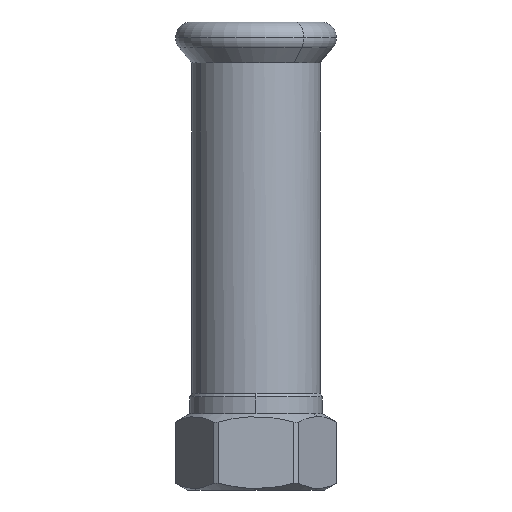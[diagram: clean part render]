
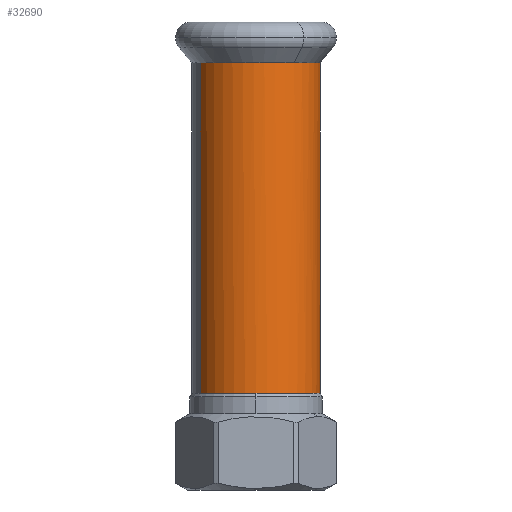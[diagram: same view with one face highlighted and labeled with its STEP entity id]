
A CAD part, left-side view. The second image highlights one B-rep face of the part: STEP entity #32690.
In plain terms, the highlighted cylindrical face has radius 12.65 mm (diameter 25.3 mm), a partial arc.
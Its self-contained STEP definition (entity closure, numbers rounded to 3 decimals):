
#2740=CARTESIAN_POINT('',(49.067,47.456,9.361));
#2750=DIRECTION('',(0.,0.,1.));
#2760=DIRECTION('',(-0.5,0.866,0.));
#2770=AXIS2_PLACEMENT_3D('',#2740,#2750,#2760);
#2780=CIRCLE('',#2770,12.65);
#2790=CARTESIAN_POINT('',(36.417,47.456,9.361));
#2800=VERTEX_POINT('',#2790);
#2810=CARTESIAN_POINT('',(55.392,36.501,9.361));
#2820=VERTEX_POINT('',#2810);
#2830=EDGE_CURVE('',#2800,#2820,#2780,.T.);
#2850=CARTESIAN_POINT('',(42.742,58.412,9.361));
#2860=VERTEX_POINT('',#2850);
#2890=EDGE_CURVE('',#2860,#2800,#2780,.T.);
#5260=CARTESIAN_POINT('',(49.067,47.456,40.289));
#5270=DIRECTION('',(0.,0.,-1.));
#5280=DIRECTION('',(-0.5,0.866,0.));
#5290=AXIS2_PLACEMENT_3D('',#5260,#5270,#5280);
#5300=CYLINDRICAL_SURFACE('',#5290,12.65);
#5310=CARTESIAN_POINT('',(49.067,47.456,
74.319));
#5320=DIRECTION('',(0.,0.,1.));
#5330=DIRECTION('',(0.805,0.593,
0.));
#5340=AXIS2_PLACEMENT_3D('',#5310,#5320,#5330);
#5350=CIRCLE('',#5340,12.65);
#5380=CARTESIAN_POINT('',(42.742,58.412,74.319));
#5390=VERTEX_POINT('',#5380);
#5420=CARTESIAN_POINT('',(42.742,58.412,40.289));
#5430=DIRECTION('',(0.,0.,-1.));
#5440=VECTOR('',#5430,1.);
#5450=LINE('',#5420,#5440);
#5460=EDGE_CURVE('',#5390,#2860,#5450,.T.);
#5490=CARTESIAN_POINT('',(55.392,36.501,40.289));
#5500=DIRECTION('',(0.,0.,-1.));
#5510=VECTOR('',#5500,1.);
#5520=LINE('',#5490,#5510);
#5530=CARTESIAN_POINT('',(55.392,36.501,74.319));
#5540=VERTEX_POINT('',#5530);
#5550=EDGE_CURVE('',#5540,#2820,#5520,.T.);
#19430=CARTESIAN_POINT('',(38.886,39.949,
74.319));
#19440=VERTEX_POINT('',#19430);
#19450=EDGE_CURVE('',#19440,#5540,#5350,.T.);
#32600=ORIENTED_EDGE('',*,*,#5460,.T.);
#32610=EDGE_CURVE('',#5390,#19440,#5350,.T.);
#32620=ORIENTED_EDGE('',*,*,#32610,.F.);
#32630=ORIENTED_EDGE('',*,*,#19450,.F.);
#32640=ORIENTED_EDGE('',*,*,#5550,.F.);
#32650=ORIENTED_EDGE('',*,*,#2830,.T.);
#32660=ORIENTED_EDGE('',*,*,#2890,.T.);
#32670=EDGE_LOOP('',(#32660,#32650,#32640,#32630,#32620,#32600));
#32680=FACE_OUTER_BOUND('',#32670,.T.);
#32690=ADVANCED_FACE('',(#32680),#5300,.T.);
